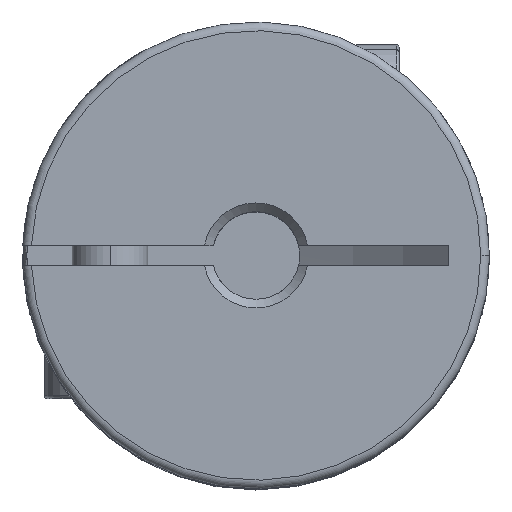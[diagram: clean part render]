
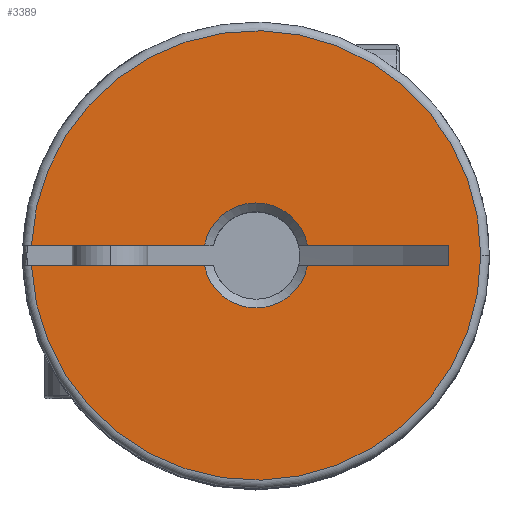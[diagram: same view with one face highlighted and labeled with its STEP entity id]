
A CAD part, top view. The second image highlights one B-rep face of the part: STEP entity #3389.
In plain terms, the highlighted planar face has unit normal (0, 0, 1).
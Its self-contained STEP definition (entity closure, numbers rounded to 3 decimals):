
#250 = CARTESIAN_POINT ( 'NONE',  ( 6.6, -0.35, 10.35 ) ) ;
#254 = CARTESIAN_POINT ( 'NONE',  ( -1.766, -0.35, 10.35 ) ) ;
#282 = CARTESIAN_POINT ( 'NONE',  ( 1.766, 0.35, 10.35 ) ) ;
#315 = CARTESIAN_POINT ( 'NONE',  ( 1.766, -0.35, 10.35 ) ) ;
#317 = CARTESIAN_POINT ( 'NONE',  ( -1.766, 0.35, 10.35 ) ) ;
#448 = CARTESIAN_POINT ( 'NONE',  ( -7.692, -0.35, 10.35 ) ) ;
#449 = CARTESIAN_POINT ( 'NONE',  ( 6.6, 0.35, 10.35 ) ) ;
#823 = CIRCLE ( 'NONE', #1693, 7.7 ) ;
#1438 = CARTESIAN_POINT ( 'NONE',  ( 0., 0., 10.35 ) ) ;
#1440 = PLANE ( 'NONE',  #5916 ) ;
#1442 = DIRECTION ( 'NONE',  ( 0., 0., -1. ) ) ;
#1443 = DIRECTION ( 'NONE',  ( 1., 0., 0. ) ) ;
#1693 = AXIS2_PLACEMENT_3D ( 'NONE', #2362, #2361, #2365 ) ;
#1782 = AXIS2_PLACEMENT_3D ( 'NONE', #4006, #4007, #4008 ) ;
#1783 = AXIS2_PLACEMENT_3D ( 'NONE', #4011, #4012, #4013 ) ;
#1784 = AXIS2_PLACEMENT_3D ( 'NONE', #4015, #4016, #4017 ) ;
#2361 = DIRECTION ( 'NONE',  ( 0., 0., 1. ) ) ;
#2362 = CARTESIAN_POINT ( 'NONE',  ( 0., 0., 10.35 ) ) ;
#2365 = DIRECTION ( 'NONE',  ( 1., 0., 0. ) ) ;
#2461 = ORIENTED_EDGE ( 'NONE', *, *, #5672, .T. ) ;
#2499 = ORIENTED_EDGE ( 'NONE', *, *, #5667, .T. ) ;
#2506 = ORIENTED_EDGE ( 'NONE', *, *, #5665, .T. ) ;
#2561 = ORIENTED_EDGE ( 'NONE', *, *, #5668, .T. ) ;
#2562 = ORIENTED_EDGE ( 'NONE', *, *, #5669, .F. ) ;
#2721 = ORIENTED_EDGE ( 'NONE', *, *, #5415, .T. ) ;
#2777 = ORIENTED_EDGE ( 'NONE', *, *, #5671, .F. ) ;
#2783 = ORIENTED_EDGE ( 'NONE', *, *, #5666, .T. ) ;
#2792 = ORIENTED_EDGE ( 'NONE', *, *, #5670, .T. ) ;
#3245 = CARTESIAN_POINT ( 'NONE',  ( -7.692, 0.35, 10.35 ) ) ;
#3253 = CARTESIAN_POINT ( 'NONE',  ( 7.7, 0., 10.35 ) ) ;
#3389 = ADVANCED_FACE ( 'NONE', ( #6067 ), #1440, .F. ) ;
#3994 = CARTESIAN_POINT ( 'NONE',  ( 6.6, -0.35, 10.35 ) ) ;
#3995 = DIRECTION ( 'NONE',  ( -1., 0., 0. ) ) ;
#3999 = CARTESIAN_POINT ( 'NONE',  ( 6.6, -0.35, 10.35 ) ) ;
#4000 = DIRECTION ( 'NONE',  ( -1., 0., 0. ) ) ;
#4004 = CARTESIAN_POINT ( 'NONE',  ( 6.6, 0.35, 10.35 ) ) ;
#4005 = DIRECTION ( 'NONE',  ( -1., 0., 0. ) ) ;
#4006 = CARTESIAN_POINT ( 'NONE',  ( 0., 0., 10.35 ) ) ;
#4007 = DIRECTION ( 'NONE',  ( 0., 0., -1. ) ) ;
#4008 = DIRECTION ( 'NONE',  ( -1., 0., 0. ) ) ;
#4009 = CARTESIAN_POINT ( 'NONE',  ( 6.6, 0.35, 10.35 ) ) ;
#4010 = DIRECTION ( 'NONE',  ( -1., 0., 0. ) ) ;
#4011 = CARTESIAN_POINT ( 'NONE',  ( 0., 0., 10.35 ) ) ;
#4012 = DIRECTION ( 'NONE',  ( 0., 0., 1. ) ) ;
#4013 = DIRECTION ( 'NONE',  ( 1., 0., 0. ) ) ;
#4014 = CARTESIAN_POINT ( 'NONE',  ( 6.6, 0.35, 10.35 ) ) ;
#4015 = CARTESIAN_POINT ( 'NONE',  ( 0., 0., 10.35 ) ) ;
#4016 = DIRECTION ( 'NONE',  ( 0., 0., -1. ) ) ;
#4017 = DIRECTION ( 'NONE',  ( -1., 0., 0. ) ) ;
#4019 = DIRECTION ( 'NONE',  ( 0., -1., 0. ) ) ;
#4023 = EDGE_LOOP ( 'NONE', ( #2506, #2783, #2499, #2561, #2721, #2562, #2792, #2777, #2461 ) ) ;
#4146 = VERTEX_POINT ( 'NONE', #282 ) ;
#4151 = VERTEX_POINT ( 'NONE', #449 ) ;
#4152 = VERTEX_POINT ( 'NONE', #448 ) ;
#4159 = VERTEX_POINT ( 'NONE', #254 ) ;
#4167 = VERTEX_POINT ( 'NONE', #250 ) ;
#4172 = VERTEX_POINT ( 'NONE', #317 ) ;
#4176 = VERTEX_POINT ( 'NONE', #315 ) ;
#4332 = VERTEX_POINT ( 'NONE', #3253 ) ;
#4333 = VERTEX_POINT ( 'NONE', #3245 ) ;
#4478 = LINE ( 'NONE', #4014, #4498 ) ;
#4485 = LINE ( 'NONE', #3994, #4487 ) ;
#4486 = CIRCLE ( 'NONE', #1782, 1.8 ) ;
#4487 = VECTOR ( 'NONE', #3995, 1000. ) ;
#4488 = LINE ( 'NONE', #3999, #4490 ) ;
#4489 = CIRCLE ( 'NONE', #1783, 7.7 ) ;
#4490 = VECTOR ( 'NONE', #4000, 1000. ) ;
#4491 = LINE ( 'NONE', #4004, #4493 ) ;
#4492 = CIRCLE ( 'NONE', #1784, 1.8 ) ;
#4493 = VECTOR ( 'NONE', #4005, 1000. ) ;
#4494 = LINE ( 'NONE', #4009, #4496 ) ;
#4496 = VECTOR ( 'NONE', #4010, 1000. ) ;
#4498 = VECTOR ( 'NONE', #4019, 1000. ) ;
#5415 = EDGE_CURVE ( 'NONE', #4332, #4333, #823, .T. ) ;
#5665 = EDGE_CURVE ( 'NONE', #4167, #4176, #4485, .T. ) ;
#5666 = EDGE_CURVE ( 'NONE', #4176, #4159, #4486, .T. ) ;
#5667 = EDGE_CURVE ( 'NONE', #4159, #4152, #4488, .T. ) ;
#5668 = EDGE_CURVE ( 'NONE', #4152, #4332, #4489, .T. ) ;
#5669 = EDGE_CURVE ( 'NONE', #4172, #4333, #4491, .T. ) ;
#5670 = EDGE_CURVE ( 'NONE', #4172, #4146, #4492, .T. ) ;
#5671 = EDGE_CURVE ( 'NONE', #4151, #4146, #4494, .T. ) ;
#5672 = EDGE_CURVE ( 'NONE', #4151, #4167, #4478, .T. ) ;
#5916 = AXIS2_PLACEMENT_3D ( 'NONE', #1438, #1442, #1443 ) ;
#6067 = FACE_OUTER_BOUND ( 'NONE', #4023, .T. ) ;
